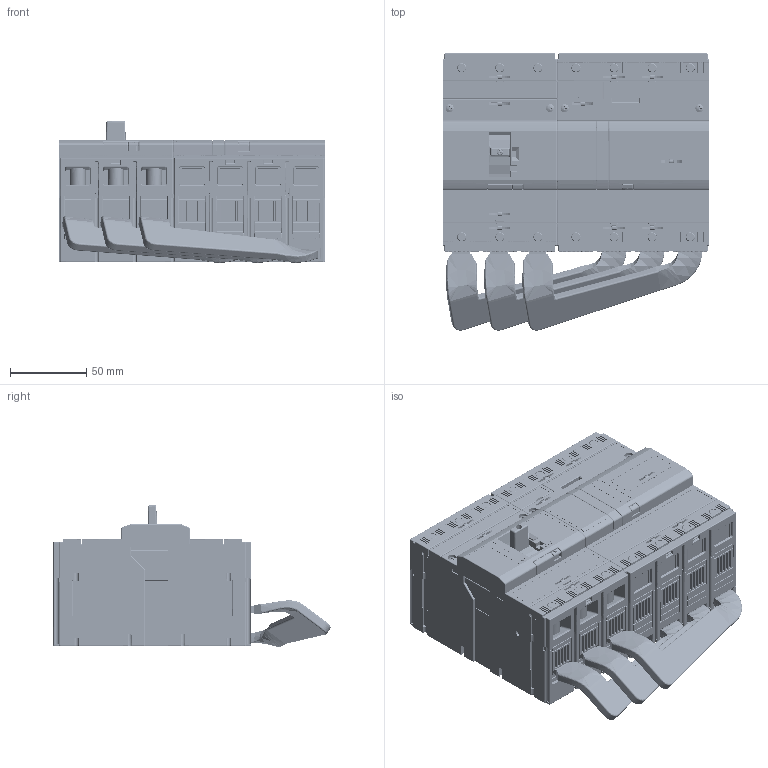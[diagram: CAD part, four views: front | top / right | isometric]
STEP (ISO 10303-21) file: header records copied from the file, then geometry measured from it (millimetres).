
FILE_DESCRIPTION (( 'STEP AP214' ), '1' );
FILE_NAME ('BC160NT305__RCD-BC0_Z_fin.step', '2013-06-13T10:28:00', ( 'Siemens' ), ( 'Siemens' ), 'SwSTEP 2.0', 'SolidWorks 2011', '' );
FILE_SCHEMA (( 'AUTOMOTIVE_DESIGN' ));
Length unit declared in the file: millimetre
Products named in the file (1): BC160NT305__RCD-BC0_Z_fin
Bounding box: 175 x 181.91 x 92.97 mm (x, y, z)
Volume: 1533736.5 mm3; surface area: 305913 mm2
Topology: 19 solids, 26 shells, 10224 faces, 27682 edges, 17551 vertices
Faces by surface type: plane 5481, cylinder 3235, torus 738, cone 428, bspline 221, sphere 121
Entity records: 466161 total; most frequent: CARTESIAN_POINT 103405, ORIENTED_EDGE 55150, DIRECTION 48073, EDGE_CURVE 27575, VECTOR 18085, LINE 18085, VERTEX_POINT 17545, AXIS2_PLACEMENT_3D 14994
